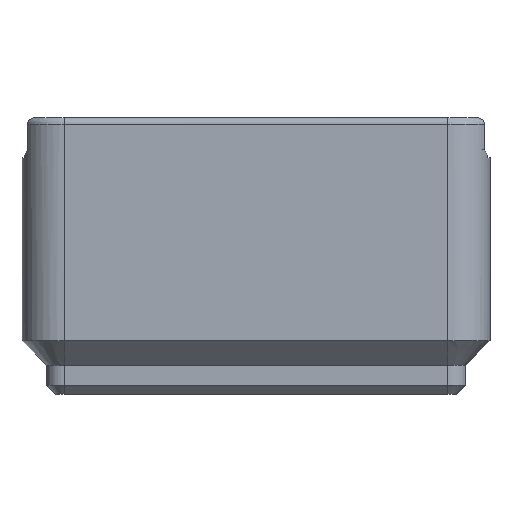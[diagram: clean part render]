
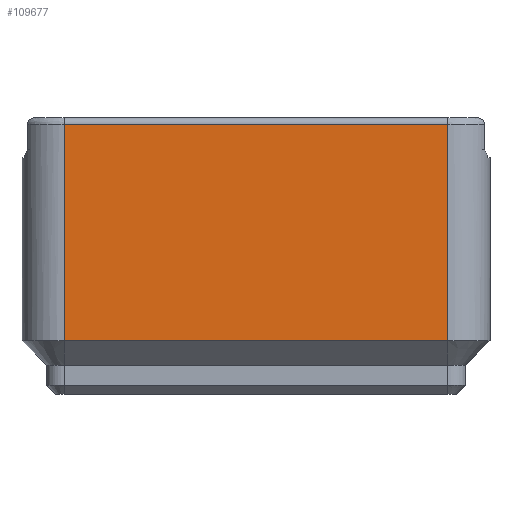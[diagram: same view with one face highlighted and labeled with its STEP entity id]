
A CAD part, left-side view. The second image highlights one B-rep face of the part: STEP entity #109677.
In plain terms, the highlighted planar face has unit normal (-1, 0, 0).
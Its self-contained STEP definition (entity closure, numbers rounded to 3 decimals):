
#2702 = CYLINDRICAL_SURFACE('',#2703,3.75);
#2703 = AXIS2_PLACEMENT_3D('',#2704,#2705,#2706);
#2704 = CARTESIAN_POINT('',(-38.,-17.,2.6));
#2705 = DIRECTION('',(0.,0.,-1.));
#2706 = DIRECTION('',(-1.,0.,0.));
#40238 = CYLINDRICAL_SURFACE('',#40239,3.75);
#40239 = AXIS2_PLACEMENT_3D('',#40240,#40241,#40242);
#40240 = CARTESIAN_POINT('',(-38.,17.,2.6));
#40241 = DIRECTION('',(0.,0.,-1.));
#40242 = DIRECTION('',(-1.,0.,0.));
#41602 = EDGE_CURVE('',#41603,#41605,#41607,.T.);
#41603 = VERTEX_POINT('',#41604);
#41604 = CARTESIAN_POINT('',(-41.75,-17.,4.75));
#41605 = VERTEX_POINT('',#41606);
#41606 = CARTESIAN_POINT('',(-41.75,-17.,23.951));
#41607 = SURFACE_CURVE('',#41608,(#41612,#41619),.PCURVE_S1.);
#41608 = LINE('',#41609,#41610);
#41609 = CARTESIAN_POINT('',(-41.75,-17.,4.75));
#41610 = VECTOR('',#41611,1.);
#41611 = DIRECTION('',(0.,0.,1.));
#41612 = PCURVE('',#2702,#41613);
#41613 = DEFINITIONAL_REPRESENTATION('',(#41614),#41618);
#41614 = LINE('',#41615,#41616);
#41615 = CARTESIAN_POINT('',(6.283,-2.15));
#41616 = VECTOR('',#41617,1.);
#41617 = DIRECTION('',(0.,-1.));
#41618 = ( GEOMETRIC_REPRESENTATION_CONTEXT(2) 
PARAMETRIC_REPRESENTATION_CONTEXT() REPRESENTATION_CONTEXT('2D SPACE',''
  ) );
#41619 = PCURVE('',#41620,#41625);
#41620 = PLANE('',#41621);
#41621 = AXIS2_PLACEMENT_3D('',#41622,#41623,#41624);
#41622 = CARTESIAN_POINT('',(-41.75,-17.,2.6));
#41623 = DIRECTION('',(-1.,0.,0.));
#41624 = DIRECTION('',(0.,1.,0.));
#41625 = DEFINITIONAL_REPRESENTATION('',(#41626),#41630);
#41626 = LINE('',#41627,#41628);
#41627 = CARTESIAN_POINT('',(0.,-2.15));
#41628 = VECTOR('',#41629,1.);
#41629 = DIRECTION('',(0.,-1.));
#41630 = ( GEOMETRIC_REPRESENTATION_CONTEXT(2) 
PARAMETRIC_REPRESENTATION_CONTEXT() REPRESENTATION_CONTEXT('2D SPACE',''
  ) );
#106130 = EDGE_CURVE('',#106131,#106133,#106135,.T.);
#106131 = VERTEX_POINT('',#106132);
#106132 = CARTESIAN_POINT('',(-41.75,17.,23.951));
#106133 = VERTEX_POINT('',#106134);
#106134 = CARTESIAN_POINT('',(-41.75,17.,4.75));
#106135 = SURFACE_CURVE('',#106136,(#106140,#106147),.PCURVE_S1.);
#106136 = LINE('',#106137,#106138);
#106137 = CARTESIAN_POINT('',(-41.75,17.,25.4));
#106138 = VECTOR('',#106139,1.);
#106139 = DIRECTION('',(0.,0.,-1.));
#106140 = PCURVE('',#40238,#106141);
#106141 = DEFINITIONAL_REPRESENTATION('',(#106142),#106146);
#106142 = LINE('',#106143,#106144);
#106143 = CARTESIAN_POINT('',(0.,-22.8));
#106144 = VECTOR('',#106145,1.);
#106145 = DIRECTION('',(0.,1.));
#106146 = ( GEOMETRIC_REPRESENTATION_CONTEXT(2) 
PARAMETRIC_REPRESENTATION_CONTEXT() REPRESENTATION_CONTEXT('2D SPACE',''
  ) );
#106147 = PCURVE('',#41620,#106148);
#106148 = DEFINITIONAL_REPRESENTATION('',(#106149),#106153);
#106149 = LINE('',#106150,#106151);
#106150 = CARTESIAN_POINT('',(34.,-22.8));
#106151 = VECTOR('',#106152,1.);
#106152 = DIRECTION('',(0.,1.));
#106153 = ( GEOMETRIC_REPRESENTATION_CONTEXT(2) 
PARAMETRIC_REPRESENTATION_CONTEXT() REPRESENTATION_CONTEXT('2D SPACE',''
  ) );
#109677 = ADVANCED_FACE('',(#109678),#41620,.T.);
#109678 = FACE_BOUND('',#109679,.T.);
#109679 = EDGE_LOOP('',(#109680,#109681,#109707,#109708));
#109680 = ORIENTED_EDGE('',*,*,#41602,.T.);
#109681 = ORIENTED_EDGE('',*,*,#109682,.F.);
#109682 = EDGE_CURVE('',#106131,#41605,#109683,.T.);
#109683 = SURFACE_CURVE('',#109684,(#109688,#109695),.PCURVE_S1.);
#109684 = LINE('',#109685,#109686);
#109685 = CARTESIAN_POINT('',(-41.75,17.,23.951));
#109686 = VECTOR('',#109687,1.);
#109687 = DIRECTION('',(-0.,-1.,-0.));
#109688 = PCURVE('',#41620,#109689);
#109689 = DEFINITIONAL_REPRESENTATION('',(#109690),#109694);
#109690 = LINE('',#109691,#109692);
#109691 = CARTESIAN_POINT('',(34.,-21.351));
#109692 = VECTOR('',#109693,1.);
#109693 = DIRECTION('',(-1.,0.));
#109694 = ( GEOMETRIC_REPRESENTATION_CONTEXT(2) 
PARAMETRIC_REPRESENTATION_CONTEXT() REPRESENTATION_CONTEXT('2D SPACE',''
  ) );
#109695 = PCURVE('',#109696,#109701);
#109696 = CYLINDRICAL_SURFACE('',#109697,0.6);
#109697 = AXIS2_PLACEMENT_3D('',#109698,#109699,#109700);
#109698 = CARTESIAN_POINT('',(-41.15,17.,23.951));
#109699 = DIRECTION('',(-0.,-1.,-0.));
#109700 = DIRECTION('',(-1.,0.,0.));
#109701 = DEFINITIONAL_REPRESENTATION('',(#109702),#109706);
#109702 = LINE('',#109703,#109704);
#109703 = CARTESIAN_POINT('',(-0.,0.));
#109704 = VECTOR('',#109705,1.);
#109705 = DIRECTION('',(-0.,1.));
#109706 = ( GEOMETRIC_REPRESENTATION_CONTEXT(2) 
PARAMETRIC_REPRESENTATION_CONTEXT() REPRESENTATION_CONTEXT('2D SPACE',''
  ) );
#109707 = ORIENTED_EDGE('',*,*,#106130,.T.);
#109708 = ORIENTED_EDGE('',*,*,#109709,.F.);
#109709 = EDGE_CURVE('',#41603,#106133,#109710,.T.);
#109710 = SURFACE_CURVE('',#109711,(#109715,#109722),.PCURVE_S1.);
#109711 = LINE('',#109712,#109713);
#109712 = CARTESIAN_POINT('',(-41.75,-17.,4.75));
#109713 = VECTOR('',#109714,1.);
#109714 = DIRECTION('',(0.,1.,0.));
#109715 = PCURVE('',#41620,#109716);
#109716 = DEFINITIONAL_REPRESENTATION('',(#109717),#109721);
#109717 = LINE('',#109718,#109719);
#109718 = CARTESIAN_POINT('',(0.,-2.15));
#109719 = VECTOR('',#109720,1.);
#109720 = DIRECTION('',(1.,0.));
#109721 = ( GEOMETRIC_REPRESENTATION_CONTEXT(2) 
PARAMETRIC_REPRESENTATION_CONTEXT() REPRESENTATION_CONTEXT('2D SPACE',''
  ) );
#109722 = PCURVE('',#109723,#109728);
#109723 = PLANE('',#109724);
#109724 = AXIS2_PLACEMENT_3D('',#109725,#109726,#109727);
#109725 = CARTESIAN_POINT('',(-40.675,-17.,3.675));
#109726 = DIRECTION('',(0.707,0.,
    0.707));
#109727 = DIRECTION('',(0.,-1.,0.));
#109728 = DEFINITIONAL_REPRESENTATION('',(#109729),#109733);
#109729 = LINE('',#109730,#109731);
#109730 = CARTESIAN_POINT('',(-0.,-1.52));
#109731 = VECTOR('',#109732,1.);
#109732 = DIRECTION('',(-1.,0.));
#109733 = ( GEOMETRIC_REPRESENTATION_CONTEXT(2) 
PARAMETRIC_REPRESENTATION_CONTEXT() REPRESENTATION_CONTEXT('2D SPACE',''
  ) );
